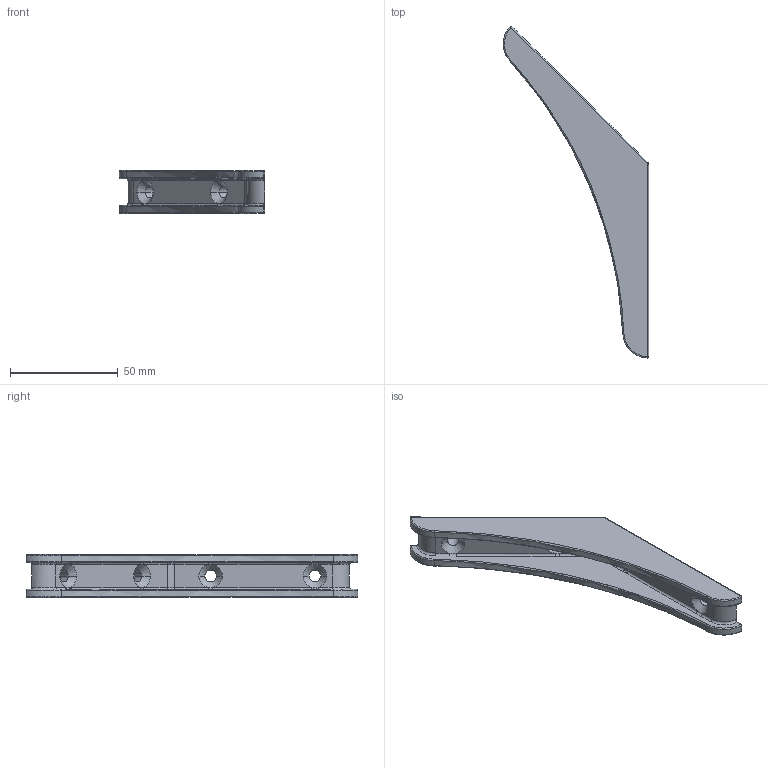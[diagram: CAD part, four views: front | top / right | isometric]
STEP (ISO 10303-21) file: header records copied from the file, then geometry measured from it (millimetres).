
FILE_DESCRIPTION (( 'STEP AP203' ), '1' );
FILE_NAME ('013.100.064.STEP', '2023-07-20T06:27:53', ( '' ), ( '' ), 'SwSTEP 2.0', 'SolidWorks 2021', '' );
FILE_SCHEMA (( 'CONFIG_CONTROL_DESIGN' ));
Length unit declared in the file: millimetre
Products named in the file (1): 013.100.064
Bounding box: 67.51 x 154.29 x 20.02 mm (x, y, z)
Volume: 28915.2 mm3; surface area: 18712.5 mm2
Topology: 1 solids, 1 shells, 173 faces, 455 edges, 278 vertices
Faces by surface type: cylinder 53, bspline 45, plane 35, cone 30, sphere 10
Entity records: 6186 total; most frequent: CARTESIAN_POINT 2360, ORIENTED_EDGE 886, DIRECTION 710, EDGE_CURVE 443, AXIS2_PLACEMENT_3D 278, VERTEX_POINT 270, EDGE_LOOP 175, FACE_OUTER_BOUND 171
